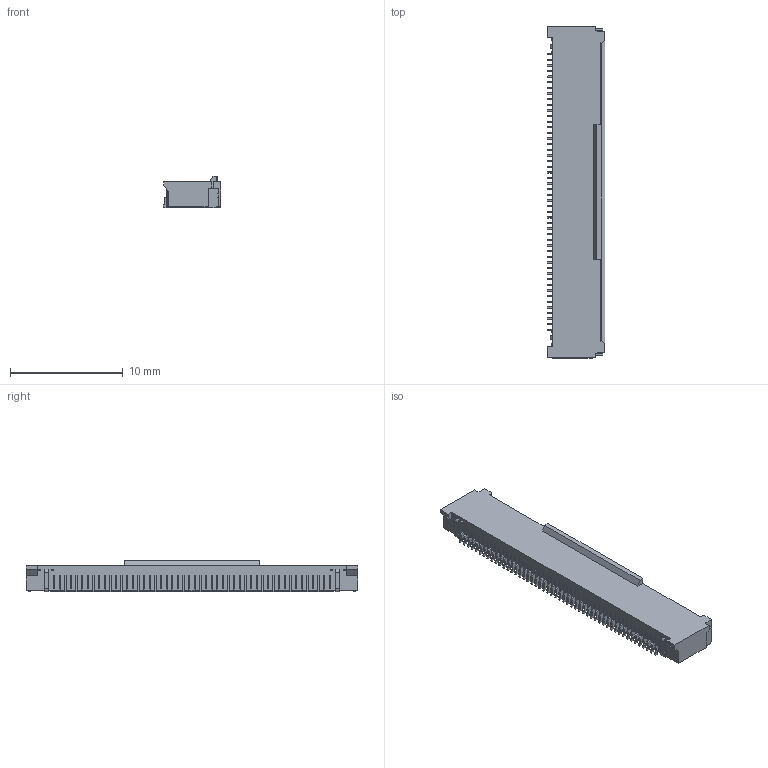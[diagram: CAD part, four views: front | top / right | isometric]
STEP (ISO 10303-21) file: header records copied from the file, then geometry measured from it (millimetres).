
FILE_DESCRIPTION (( 'STEP AP203' ), '1' );
FILE_NAME ('6893RA-50p.STEP', '2023-06-26T09:19:11', ( '' ), ( '' ), 'SwSTEP 2.0', 'SolidWorks 2021', '' );
FILE_SCHEMA (( 'CONFIG_CONTROL_DESIGN' ));
Length unit declared in the file: millimetre
Products named in the file (1): 6893RA-50p
Bounding box: 5.15 x 29.5 x 2.8 mm (x, y, z)
Volume: 293.5 mm3; surface area: 503.4 mm2
Topology: 1 solids, 1 shells, 1094 faces, 3077 edges, 2050 vertices
Faces by surface type: plane 757, cylinder 337
Entity records: 35288 total; most frequent: CARTESIAN_POINT 6222, ORIENTED_EDGE 6154, DIRECTION 5941, EDGE_CURVE 3077, LINE 2403, VECTOR 2403, VERTEX_POINT 2050, AXIS2_PLACEMENT_3D 1769
